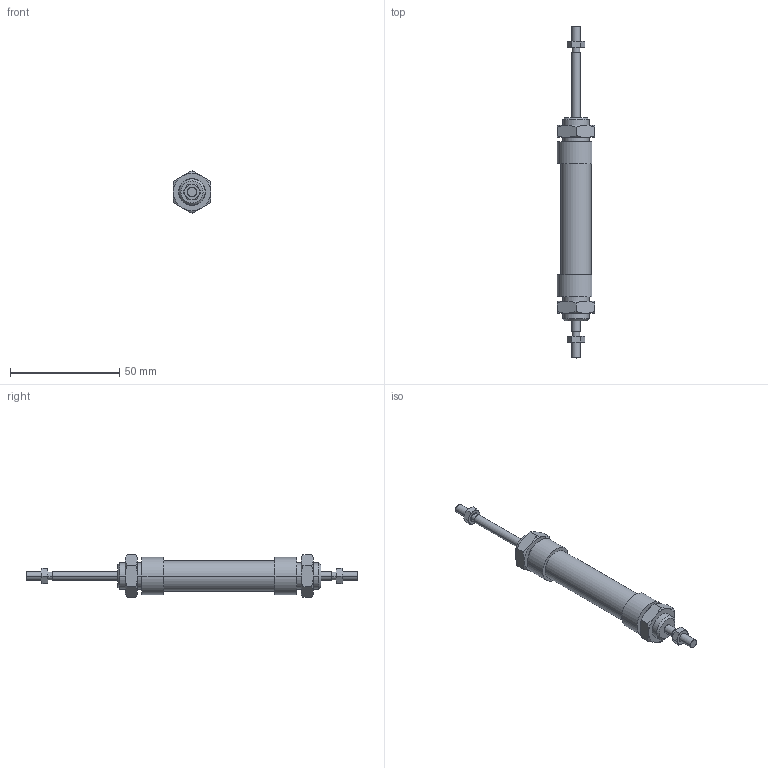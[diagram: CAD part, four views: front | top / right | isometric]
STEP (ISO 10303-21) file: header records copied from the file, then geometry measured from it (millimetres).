
FILE_DESCRIPTION((''),'2;1');
FILE_NAME('I:\DOC-EDP\Lib-3d\1200\CILINDRI\1262\1262_10_0025.stp','2003-04-02T18:56:47',('maffial1'),(''),'Autodesk Inventor (R) 6.0','Autodesk Inventor (R) 6.0','');
FILE_SCHEMA(('AUTOMOTIVE_DESIGN { 1 0 10303 214 1 1 1 1 }'));
Length unit declared in the file: millimetre
Products named in the file (5): 1262_10_0025; S1262_10_25; C1262_10_25; 1200_10_05; 1200_10_06
Assembly tree (6 placements, depth 2):
  1262_10_0025
    S1262_10_25
    C1262_10_25
    1200_10_05  x2
    1200_10_06  x2
Bounding box: 17 x 152 x 19.63 mm (x, y, z)
Volume: 17181.4 mm3; surface area: 9755.5 mm2
Topology: 6 solids, 6 shells, 170 faces, 356 edges, 208 vertices
Faces by surface type: cone 72, plane 46, bspline 30, cylinder 22
Entity records: 3247 total; most frequent: CARTESIAN_POINT 893, DIRECTION 490, ORIENTED_EDGE 456, EDGE_CURVE 228, AXIS2_PLACEMENT_3D 209, VERTEX_POINT 136, EDGE_LOOP 126, FACE_OUTER_BOUND 110
